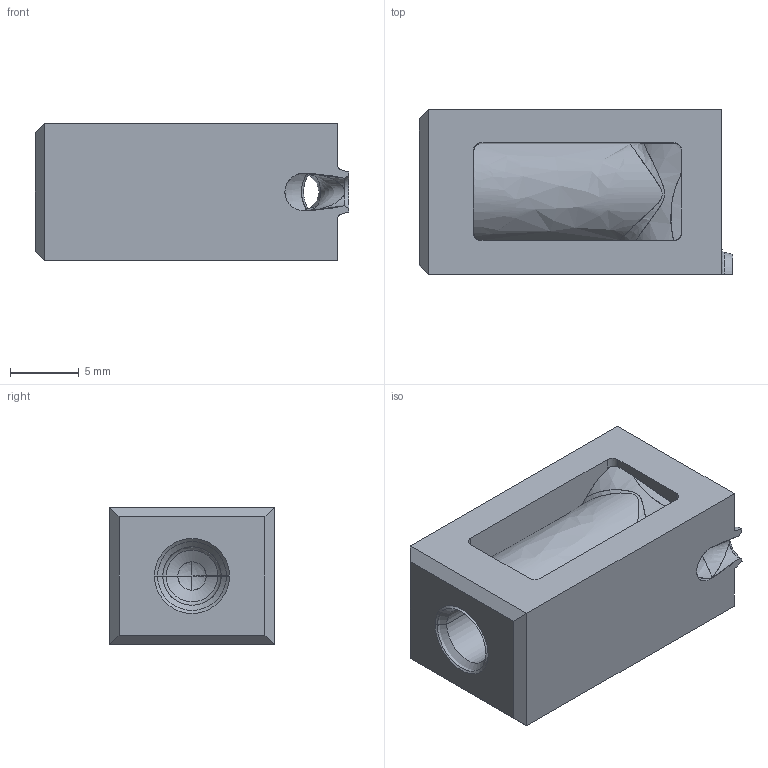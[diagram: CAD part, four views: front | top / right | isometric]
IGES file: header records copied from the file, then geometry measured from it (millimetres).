
Start section: START RECORD GO HERE.
Global section: file name: tgs12-20-s2.igs; native system: DASSAULT SYSTEMES CATIA V5 R20 - www.3ds.com; preprocessor: CATIA Version 5 Release 20 ; author: Utente; organization: NB04-ASUS; date: 20200418.085931; units: millimetre
Bounding box: 22.8 x 12 x 10 mm (x, y, z)
Surface area: 1877.3 mm2 (no closed solid volume)
Topology: 0 solids, 0 shells, 73 faces, 439 edges, 434 vertices
Faces by surface type: revolution 37, plane 21, bspline 15
